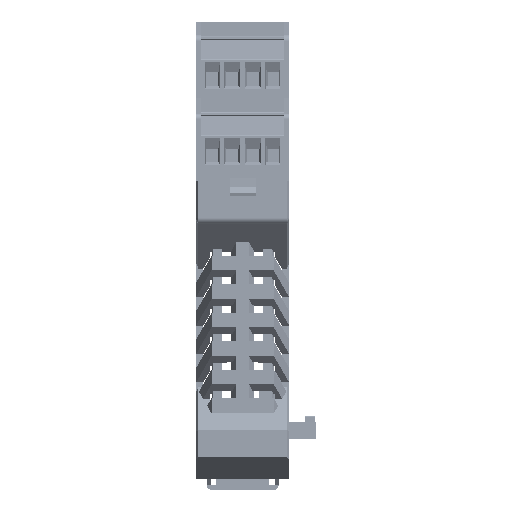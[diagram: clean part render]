
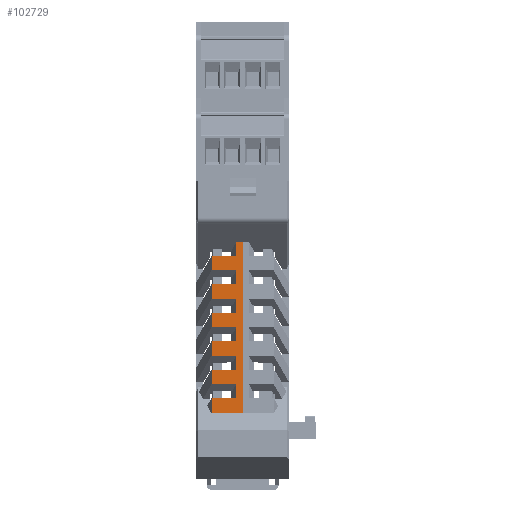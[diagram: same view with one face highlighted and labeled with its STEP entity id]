
A CAD part, front view. The second image highlights one B-rep face of the part: STEP entity #102729.
In plain terms, the highlighted planar face has unit normal (0, -1, 0) as drawn and (1, 0, 0) by its records, which use the part's own axes.
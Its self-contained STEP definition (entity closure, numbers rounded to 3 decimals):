
#102729=ADVANCED_FACE('',(#217280),#217282,.T.);
#217280=FACE_BOUND('',#217281,.T.);
#217281=EDGE_LOOP('',(#309453,#309454,#309455,#309456,#309457,#309458,#309459,#309460,
#309461,#309462,#309463,#309464,#309465,#309466,#309467,#309468,#309469,#309470,
#309471,#309472,#309473,#309474,#309475,#309476,#309477,#309478));
#217282=PLANE('',#217283);
#217283=AXIS2_PLACEMENT_3D('',#217284,#217285,#217286);
#217284=CARTESIAN_POINT('',(42.55,76.5,0.));
#217285=DIRECTION('',(1.,0.,0.));
#217286=DIRECTION('',(0.,0.,-1.));
#309453=ORIENTED_EDGE('',*,*,#363768,.F.);
#309454=ORIENTED_EDGE('',*,*,#363707,.F.);
#309455=ORIENTED_EDGE('',*,*,#363769,.F.);
#309456=ORIENTED_EDGE('',*,*,#363770,.T.);
#309457=ORIENTED_EDGE('',*,*,#363271,.T.);
#309458=ORIENTED_EDGE('',*,*,#363771,.F.);
#309459=ORIENTED_EDGE('',*,*,#363637,.F.);
#309460=ORIENTED_EDGE('',*,*,#363702,.F.);
#309461=ORIENTED_EDGE('',*,*,#363432,.F.);
#309462=ORIENTED_EDGE('',*,*,#363748,.T.);
#309463=ORIENTED_EDGE('',*,*,#363726,.F.);
#309464=ORIENTED_EDGE('',*,*,#363699,.F.);
#309465=ORIENTED_EDGE('',*,*,#363754,.F.);
#309466=ORIENTED_EDGE('',*,*,#363772,.T.);
#309467=ORIENTED_EDGE('',*,*,#363755,.T.);
#309468=ORIENTED_EDGE('',*,*,#363713,.F.);
#309469=ORIENTED_EDGE('',*,*,#363767,.T.);
#309470=ORIENTED_EDGE('',*,*,#363773,.T.);
#309471=ORIENTED_EDGE('',*,*,#363774,.T.);
#309472=ORIENTED_EDGE('',*,*,#363710,.F.);
#309473=ORIENTED_EDGE('',*,*,#363689,.T.);
#309474=ORIENTED_EDGE('',*,*,#363775,.F.);
#309475=ORIENTED_EDGE('',*,*,#363669,.T.);
#309476=ORIENTED_EDGE('',*,*,#363709,.F.);
#309477=ORIENTED_EDGE('',*,*,#363682,.T.);
#309478=ORIENTED_EDGE('',*,*,#363776,.T.);
#363271=EDGE_CURVE('',#427283,#427281,#427284,.T.);
#363432=EDGE_CURVE('',#427557,#427559,#427560,.T.);
#363637=EDGE_CURVE('',#427904,#427906,#427907,.T.);
#363669=EDGE_CURVE('',#427948,#427954,#427956,.T.);
#363682=EDGE_CURVE('',#427976,#427974,#427977,.T.);
#363689=EDGE_CURVE('',#427980,#427984,#427986,.T.);
#363699=EDGE_CURVE('',#428001,#428003,#428004,.T.);
#363702=EDGE_CURVE('',#427559,#427904,#428008,.T.);
#363707=EDGE_CURVE('',#428015,#428017,#428018,.T.);
#363709=EDGE_CURVE('',#427976,#427954,#428020,.T.);
#363710=EDGE_CURVE('',#427980,#428021,#428022,.T.);
#363713=EDGE_CURVE('',#428024,#428026,#428027,.T.);
#363726=EDGE_CURVE('',#428003,#428046,#428047,.T.);
#363748=EDGE_CURVE('',#427557,#428046,#428082,.T.);
#363754=EDGE_CURVE('',#428089,#428001,#428091,.T.);
#363755=EDGE_CURVE('',#428092,#428026,#428093,.T.);
#363767=EDGE_CURVE('',#428024,#428107,#428109,.T.);
#363768=EDGE_CURVE('',#428017,#428110,#428111,.T.);
#363769=EDGE_CURVE('',#428112,#428015,#428113,.T.);
#363770=EDGE_CURVE('',#428112,#427283,#428114,.T.);
#363771=EDGE_CURVE('',#427906,#427281,#428115,.T.);
#363772=EDGE_CURVE('',#428089,#428092,#428116,.T.);
#363773=EDGE_CURVE('',#428107,#428117,#428118,.T.);
#363774=EDGE_CURVE('',#428117,#428021,#428119,.T.);
#363775=EDGE_CURVE('',#427948,#427984,#428120,.T.);
#363776=EDGE_CURVE('',#427974,#428110,#428121,.T.);
#427281=VERTEX_POINT('',#573687);
#427283=VERTEX_POINT('',#573691);
#427284=LINE('',#573692,#573693);
#427557=VERTEX_POINT('',#574294);
#427559=VERTEX_POINT('',#574298);
#427560=LINE('',#574299,#574300);
#427904=VERTEX_POINT('',#575069);
#427906=VERTEX_POINT('',#575073);
#427907=LINE('',#575074,#575075);
#427948=VERTEX_POINT('',#575169);
#427954=VERTEX_POINT('',#575183);
#427956=LINE('',#575187,#575188);
#427974=VERTEX_POINT('',#575229);
#427976=VERTEX_POINT('',#575233);
#427977=LINE('',#575234,#575235);
#427980=VERTEX_POINT('',#575243);
#427984=VERTEX_POINT('',#575253);
#427986=LINE('',#575257,#575258);
#428001=VERTEX_POINT('',#575290);
#428003=VERTEX_POINT('',#575294);
#428004=LINE('',#575295,#575296);
#428008=LINE('',#575305,#575306);
#428015=VERTEX_POINT('',#575320);
#428017=VERTEX_POINT('',#575324);
#428018=LINE('',#575325,#575326);
#428020=LINE('',#575331,#575332);
#428021=VERTEX_POINT('',#575334);
#428022=LINE('',#575335,#575336);
#428024=VERTEX_POINT('',#575341);
#428026=VERTEX_POINT('',#575345);
#428027=LINE('',#575346,#575347);
#428046=VERTEX_POINT('',#575391);
#428047=LINE('',#575392,#575393);
#428082=LINE('',#575471,#575472);
#428089=VERTEX_POINT('',#575488);
#428091=LINE('',#575492,#575493);
#428092=VERTEX_POINT('',#575495);
#428093=LINE('',#575496,#575497);
#428107=VERTEX_POINT('',#575532);
#428109=LINE('',#575536,#575537);
#428110=VERTEX_POINT('',#575539);
#428111=LINE('',#575540,#575541);
#428112=VERTEX_POINT('',#575543);
#428113=LINE('',#575544,#575545);
#428114=LINE('',#575547,#575548);
#428115=LINE('',#575550,#575551);
#428116=LINE('',#575553,#575554);
#428117=VERTEX_POINT('',#575556);
#428118=LINE('',#575557,#575558);
#428119=LINE('',#575560,#575561);
#428120=LINE('',#575563,#575564);
#428121=LINE('',#575566,#575567);
#573687=CARTESIAN_POINT('',(42.55,20.,0.));
#573691=CARTESIAN_POINT('',(42.55,20.,7.547));
#573692=CARTESIAN_POINT('',(42.55,20.,7.547));
#573693=VECTOR('',#573694,1.);
#573694=DIRECTION('',(0.,0.,-1.));
#574294=CARTESIAN_POINT('',(42.55,58.2,7.547));
#574298=CARTESIAN_POINT('',(42.55,58.2,1.5));
#574299=CARTESIAN_POINT('',(42.55,58.2,7.547));
#574300=VECTOR('',#574301,1.);
#574301=DIRECTION('',(0.,0.,-1.));
#575069=CARTESIAN_POINT('',(42.55,61.6,1.5));
#575073=CARTESIAN_POINT('',(42.55,61.6,0.));
#575074=CARTESIAN_POINT('',(42.55,61.6,1.5));
#575075=VECTOR('',#575076,1.);
#575076=DIRECTION('',(0.,0.,-1.));
#575169=CARTESIAN_POINT('',(42.55,34.,7.547));
#575183=CARTESIAN_POINT('',(42.55,34.,1.5));
#575187=CARTESIAN_POINT('',(42.55,34.,7.547));
#575188=VECTOR('',#575189,1.);
#575189=DIRECTION('',(0.,0.,-1.));
#575229=CARTESIAN_POINT('',(42.55,30.6,7.547));
#575233=CARTESIAN_POINT('',(42.55,30.6,1.5));
#575234=CARTESIAN_POINT('',(42.55,30.6,1.5));
#575235=VECTOR('',#575236,1.);
#575236=DIRECTION('',(0.,0.,1.));
#575243=CARTESIAN_POINT('',(42.55,37.5,1.5));
#575253=CARTESIAN_POINT('',(42.55,37.5,7.547));
#575257=CARTESIAN_POINT('',(42.55,37.5,1.5));
#575258=VECTOR('',#575259,1.);
#575259=DIRECTION('',(0.,0.,1.));
#575290=CARTESIAN_POINT('',(42.55,51.3,1.5));
#575294=CARTESIAN_POINT('',(42.55,54.7,1.5));
#575295=CARTESIAN_POINT('',(42.55,51.3,1.5));
#575296=VECTOR('',#575297,1.);
#575297=DIRECTION('',(0.,1.,0.));
#575305=CARTESIAN_POINT('',(42.55,58.2,1.5));
#575306=VECTOR('',#575307,1.);
#575307=DIRECTION('',(0.,1.,0.));
#575320=CARTESIAN_POINT('',(42.55,23.7,1.5));
#575324=CARTESIAN_POINT('',(42.55,27.1,1.5));
#575325=CARTESIAN_POINT('',(42.55,23.7,1.5));
#575326=VECTOR('',#575327,1.);
#575327=DIRECTION('',(0.,1.,0.));
#575331=CARTESIAN_POINT('',(42.55,30.6,1.5));
#575332=VECTOR('',#575333,1.);
#575333=DIRECTION('',(0.,1.,0.));
#575334=CARTESIAN_POINT('',(42.55,40.9,1.5));
#575335=CARTESIAN_POINT('',(42.55,37.5,1.5));
#575336=VECTOR('',#575337,1.);
#575337=DIRECTION('',(0.,1.,0.));
#575341=CARTESIAN_POINT('',(42.55,44.4,1.5));
#575345=CARTESIAN_POINT('',(42.55,47.8,1.5));
#575346=CARTESIAN_POINT('',(42.55,44.4,1.5));
#575347=VECTOR('',#575348,1.);
#575348=DIRECTION('',(0.,1.,0.));
#575391=CARTESIAN_POINT('',(42.55,54.7,7.547));
#575392=CARTESIAN_POINT('',(42.55,54.7,1.5));
#575393=VECTOR('',#575394,1.);
#575394=DIRECTION('',(0.,0.,1.));
#575471=CARTESIAN_POINT('',(42.55,58.2,7.547));
#575472=VECTOR('',#575473,1.);
#575473=DIRECTION('',(0.,-1.,0.));
#575488=CARTESIAN_POINT('',(42.55,51.3,7.547));
#575492=CARTESIAN_POINT('',(42.55,51.3,7.547));
#575493=VECTOR('',#575494,1.);
#575494=DIRECTION('',(0.,0.,-1.));
#575495=CARTESIAN_POINT('',(42.55,47.8,7.547));
#575496=CARTESIAN_POINT('',(42.55,47.8,7.547));
#575497=VECTOR('',#575498,1.);
#575498=DIRECTION('',(0.,0.,-1.));
#575532=CARTESIAN_POINT('',(42.55,44.4,7.547));
#575536=CARTESIAN_POINT('',(42.55,44.4,1.5));
#575537=VECTOR('',#575538,1.);
#575538=DIRECTION('',(0.,0.,1.));
#575539=CARTESIAN_POINT('',(42.55,27.1,7.547));
#575540=CARTESIAN_POINT('',(42.55,27.1,1.5));
#575541=VECTOR('',#575542,1.);
#575542=DIRECTION('',(0.,0.,1.));
#575543=CARTESIAN_POINT('',(42.55,23.7,7.547));
#575544=CARTESIAN_POINT('',(42.55,23.7,7.547));
#575545=VECTOR('',#575546,1.);
#575546=DIRECTION('',(0.,0.,-1.));
#575547=CARTESIAN_POINT('',(42.55,23.7,7.547));
#575548=VECTOR('',#575549,1.);
#575549=DIRECTION('',(0.,-1.,0.));
#575550=CARTESIAN_POINT('',(42.55,61.6,0.));
#575551=VECTOR('',#575552,1.);
#575552=DIRECTION('',(0.,-1.,0.));
#575553=CARTESIAN_POINT('',(42.55,51.3,7.547));
#575554=VECTOR('',#575555,1.);
#575555=DIRECTION('',(0.,-1.,0.));
#575556=CARTESIAN_POINT('',(42.55,40.9,7.547));
#575557=CARTESIAN_POINT('',(42.55,44.4,7.547));
#575558=VECTOR('',#575559,1.);
#575559=DIRECTION('',(0.,-1.,0.));
#575560=CARTESIAN_POINT('',(42.55,40.9,7.547));
#575561=VECTOR('',#575562,1.);
#575562=DIRECTION('',(0.,0.,-1.));
#575563=CARTESIAN_POINT('',(42.55,34.,7.547));
#575564=VECTOR('',#575565,1.);
#575565=DIRECTION('',(0.,1.,0.));
#575566=CARTESIAN_POINT('',(42.55,30.6,7.547));
#575567=VECTOR('',#575568,1.);
#575568=DIRECTION('',(0.,-1.,0.));
